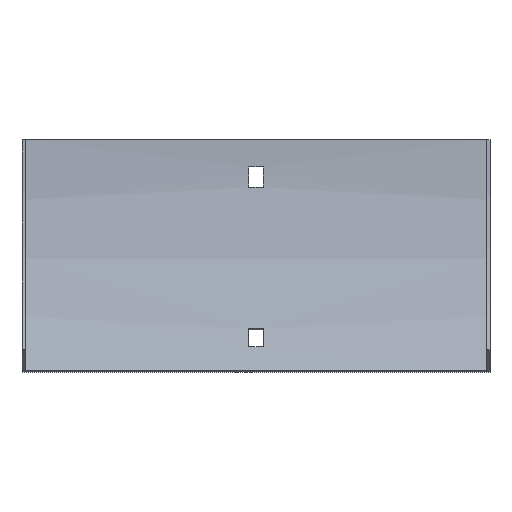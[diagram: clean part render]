
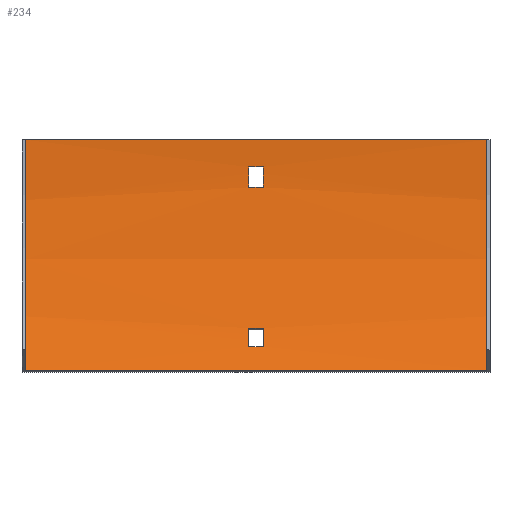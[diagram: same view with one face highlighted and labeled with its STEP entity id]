
A CAD part, front view. The second image highlights one B-rep face of the part: STEP entity #234.
In plain terms, the highlighted cylindrical face has radius 204 mm (diameter 408 mm), a partial arc.
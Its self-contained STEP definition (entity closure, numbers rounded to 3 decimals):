
#1 = VECTOR ( 'NONE', #377, 1000. ) ;
#10 = CARTESIAN_POINT ( 'NONE',  ( 102., -28.831, -102. ) ) ;
#11 = CARTESIAN_POINT ( 'NONE',  ( -102., -1.5, 0. ) ) ;
#16 = CIRCLE ( 'NONE', #174, 204. ) ;
#17 = VERTEX_POINT ( 'NONE', #530 ) ;
#18 = CARTESIAN_POINT ( 'NONE',  ( 103.5, -23.137, -91.431 ) ) ;
#21 = ORIENTED_EDGE ( 'NONE', *, *, #496, .T. ) ;
#24 = CARTESIAN_POINT ( 'NONE',  ( -3.25, -19.269, -83.272 ) ) ;
#31 = LINE ( 'NONE', #309, #122 ) ;
#38 = DIRECTION ( 'NONE',  ( 0., 0., -1. ) ) ;
#57 = CARTESIAN_POINT ( 'NONE',  ( 103.5, -1.853, -12. ) ) ;
#61 = VERTEX_POINT ( 'NONE', #584 ) ;
#62 = CARTESIAN_POINT ( 'NONE',  ( -102., -28.831, -102. ) ) ;
#64 = VECTOR ( 'NONE', #574, 1000. ) ;
#73 = CARTESIAN_POINT ( 'NONE',  ( -3.25, -205.5, 0. ) ) ;
#76 = CARTESIAN_POINT ( 'NONE',  ( 102., -1.5, 0. ) ) ;
#78 = CARTESIAN_POINT ( 'NONE',  ( -3.25, -2.584, -21. ) ) ;
#82 = DIRECTION ( 'NONE',  ( 0., 0., 1. ) ) ;
#86 = AXIS2_PLACEMENT_3D ( 'NONE', #73, #535, #588 ) ;
#87 = VERTEX_POINT ( 'NONE', #11 ) ;
#89 = AXIS2_PLACEMENT_3D ( 'NONE', #495, #211, #586 ) ;
#90 = EDGE_CURVE ( 'NONE', #345, #87, #386, .T. ) ;
#92 = ORIENTED_EDGE ( 'NONE', *, *, #445, .T. ) ;
#94 = ORIENTED_EDGE ( 'NONE', *, *, #314, .F. ) ;
#97 = DIRECTION ( 'NONE',  ( 0., 0., 1. ) ) ;
#106 = EDGE_CURVE ( 'NONE', #557, #135, #317, .T. ) ;
#110 = CIRCLE ( 'NONE', #547, 204. ) ;
#117 = CARTESIAN_POINT ( 'NONE',  ( -3.25, -23.137, -91.431 ) ) ;
#122 = VECTOR ( 'NONE', #205, 1000. ) ;
#128 = AXIS2_PLACEMENT_3D ( 'NONE', #358, #492, #452 ) ;
#131 = FACE_BOUND ( 'NONE', #280, .T. ) ;
#135 = VERTEX_POINT ( 'NONE', #78 ) ;
#142 = DIRECTION ( 'NONE',  ( 1., 0., 0. ) ) ;
#156 = EDGE_LOOP ( 'NONE', ( #92, #21, #177, #465 ) ) ;
#159 = VERTEX_POINT ( 'NONE', #505 ) ;
#167 = CIRCLE ( 'NONE', #89, 204. ) ;
#174 = AXIS2_PLACEMENT_3D ( 'NONE', #437, #142, #97 ) ;
#177 = ORIENTED_EDGE ( 'NONE', *, *, #487, .T. ) ;
#179 = CYLINDRICAL_SURFACE ( 'NONE', #311, 204. ) ;
#198 = DIRECTION ( 'NONE',  ( -1., 0., 0. ) ) ;
#199 = EDGE_CURVE ( 'NONE', #61, #349, #592, .T. ) ;
#205 = DIRECTION ( 'NONE',  ( 1., 0., 0. ) ) ;
#207 = AXIS2_PLACEMENT_3D ( 'NONE', #456, #397, #38 ) ;
#211 = DIRECTION ( 'NONE',  ( 1., 0., 0. ) ) ;
#225 = EDGE_CURVE ( 'NONE', #159, #345, #110, .T. ) ;
#230 = VECTOR ( 'NONE', #566, 1000. ) ;
#234 = ADVANCED_FACE ( 'NONE', ( #131, #274, #425 ), #179, .F. ) ;
#235 = EDGE_LOOP ( 'NONE', ( #462, #404, #478, #432 ) ) ;
#243 = ORIENTED_EDGE ( 'NONE', *, *, #199, .F. ) ;
#244 = LINE ( 'NONE', #18, #518 ) ;
#272 = DIRECTION ( 'NONE',  ( -1., 0., 0. ) ) ;
#274 = FACE_OUTER_BOUND ( 'NONE', #235, .T. ) ;
#280 = EDGE_LOOP ( 'NONE', ( #562, #399, #243, #94 ) ) ;
#309 = CARTESIAN_POINT ( 'NONE',  ( 103.5, -19.269, -83.272 ) ) ;
#311 = AXIS2_PLACEMENT_3D ( 'NONE', #366, #272, #504 ) ;
#314 = EDGE_CURVE ( 'NONE', #135, #61, #602, .T. ) ;
#317 = CIRCLE ( 'NONE', #86, 204. ) ;
#332 = CARTESIAN_POINT ( 'NONE',  ( -3.25, -1.853, -12. ) ) ;
#339 = LINE ( 'NONE', #10, #64 ) ;
#344 = EDGE_CURVE ( 'NONE', #159, #428, #339, .T. ) ;
#345 = VERTEX_POINT ( 'NONE', #564 ) ;
#349 = VERTEX_POINT ( 'NONE', #486 ) ;
#358 = CARTESIAN_POINT ( 'NONE',  ( 3.25, -205.5, 0. ) ) ;
#366 = CARTESIAN_POINT ( 'NONE',  ( 103.5, -205.5, 0. ) ) ;
#377 = DIRECTION ( 'NONE',  ( 1., 0., 0. ) ) ;
#386 = LINE ( 'NONE', #76, #541 ) ;
#395 = LINE ( 'NONE', #57, #230 ) ;
#397 = DIRECTION ( 'NONE',  ( 1., 0., 0. ) ) ;
#399 = ORIENTED_EDGE ( 'NONE', *, *, #411, .F. ) ;
#403 = CIRCLE ( 'NONE', #128, 204. ) ;
#404 = ORIENTED_EDGE ( 'NONE', *, *, #344, .F. ) ;
#407 = DIRECTION ( 'NONE',  ( -1., 0., 0. ) ) ;
#411 = EDGE_CURVE ( 'NONE', #349, #557, #395, .T. ) ;
#425 = FACE_BOUND ( 'NONE', #156, .T. ) ;
#428 = VERTEX_POINT ( 'NONE', #62 ) ;
#432 = ORIENTED_EDGE ( 'NONE', *, *, #90, .T. ) ;
#437 = CARTESIAN_POINT ( 'NONE',  ( -102., -205.5, 0. ) ) ;
#443 = VERTEX_POINT ( 'NONE', #481 ) ;
#445 = EDGE_CURVE ( 'NONE', #17, #475, #244, .T. ) ;
#452 = DIRECTION ( 'NONE',  ( 0., 0., 1. ) ) ;
#456 = CARTESIAN_POINT ( 'NONE',  ( 3.25, -205.5, 0. ) ) ;
#457 = DIRECTION ( 'NONE',  ( 1., 0., 0. ) ) ;
#462 = ORIENTED_EDGE ( 'NONE', *, *, #560, .F. ) ;
#465 = ORIENTED_EDGE ( 'NONE', *, *, #470, .T. ) ;
#470 = EDGE_CURVE ( 'NONE', #443, #17, #403, .T. ) ;
#475 = VERTEX_POINT ( 'NONE', #117 ) ;
#478 = ORIENTED_EDGE ( 'NONE', *, *, #225, .T. ) ;
#481 = CARTESIAN_POINT ( 'NONE',  ( 3.25, -19.269, -83.272 ) ) ;
#485 = VERTEX_POINT ( 'NONE', #24 ) ;
#486 = CARTESIAN_POINT ( 'NONE',  ( 3.25, -1.853, -12. ) ) ;
#487 = EDGE_CURVE ( 'NONE', #485, #443, #31, .T. ) ;
#492 = DIRECTION ( 'NONE',  ( -1., 0., 0. ) ) ;
#495 = CARTESIAN_POINT ( 'NONE',  ( -3.25, -205.5, 0. ) ) ;
#496 = EDGE_CURVE ( 'NONE', #475, #485, #167, .T. ) ;
#504 = DIRECTION ( 'NONE',  ( 0., 0., 1. ) ) ;
#505 = CARTESIAN_POINT ( 'NONE',  ( 102., -28.831, -102. ) ) ;
#510 = CARTESIAN_POINT ( 'NONE',  ( 102., -205.5, 0. ) ) ;
#518 = VECTOR ( 'NONE', #198, 1000. ) ;
#530 = CARTESIAN_POINT ( 'NONE',  ( 3.25, -23.137, -91.431 ) ) ;
#535 = DIRECTION ( 'NONE',  ( -1., 0., 0. ) ) ;
#541 = VECTOR ( 'NONE', #407, 1000. ) ;
#547 = AXIS2_PLACEMENT_3D ( 'NONE', #510, #457, #82 ) ;
#556 = CARTESIAN_POINT ( 'NONE',  ( 103.5, -2.584, -21. ) ) ;
#557 = VERTEX_POINT ( 'NONE', #332 ) ;
#560 = EDGE_CURVE ( 'NONE', #428, #87, #16, .T. ) ;
#562 = ORIENTED_EDGE ( 'NONE', *, *, #106, .F. ) ;
#564 = CARTESIAN_POINT ( 'NONE',  ( 102., -1.5, 0. ) ) ;
#566 = DIRECTION ( 'NONE',  ( -1., 0., 0. ) ) ;
#574 = DIRECTION ( 'NONE',  ( -1., 0., 0. ) ) ;
#584 = CARTESIAN_POINT ( 'NONE',  ( 3.25, -2.584, -21. ) ) ;
#586 = DIRECTION ( 'NONE',  ( 0., 0., -1. ) ) ;
#588 = DIRECTION ( 'NONE',  ( 0., 0., 1. ) ) ;
#592 = CIRCLE ( 'NONE', #207, 204. ) ;
#602 = LINE ( 'NONE', #556, #1 ) ;
